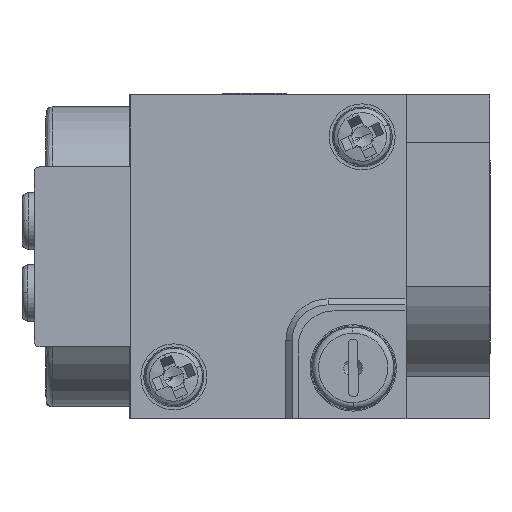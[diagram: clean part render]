
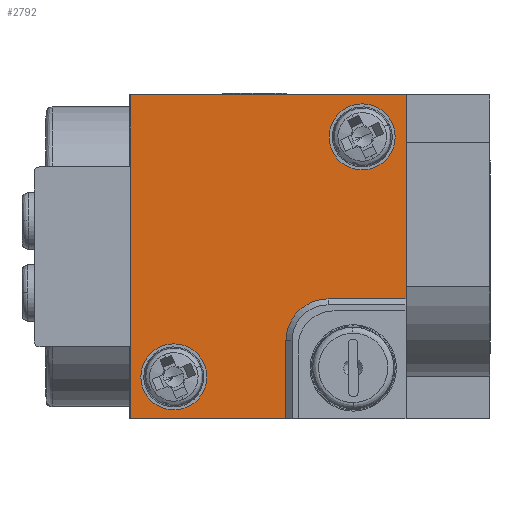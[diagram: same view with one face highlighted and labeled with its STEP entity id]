
A CAD part, left-side view. The second image highlights one B-rep face of the part: STEP entity #2792.
In plain terms, the highlighted planar face has unit normal (-1, 0, 0) as drawn and (0, 0, 1) by its records, which use the part's own axes.
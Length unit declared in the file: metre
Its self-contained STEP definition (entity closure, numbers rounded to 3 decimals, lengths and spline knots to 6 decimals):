
#42 = VERTEX_POINT ( 'NONE', #3464 ) ;
#139 = DIRECTION ( 'NONE',  ( 0., 0., -1. ) ) ;
#288 = DIRECTION ( 'NONE',  ( 0., 0., -1. ) ) ;
#476 = VECTOR ( 'NONE', #8822, 1. ) ;
#517 = CARTESIAN_POINT ( 'NONE',  ( 0., 0.031, 0.006 ) ) ;
#615 = VERTEX_POINT ( 'NONE', #5767 ) ;
#792 = LINE ( 'NONE', #8473, #476 ) ;
#836 = EDGE_CURVE ( 'NONE', #10432, #42, #5007, .T. ) ;
#1082 = CARTESIAN_POINT ( 'NONE',  ( 0.01, 0.02465, 0.006 ) ) ;
#1146 = CARTESIAN_POINT ( 'NONE',  ( -0.007, 0.0275, 0.006 ) ) ;
#1487 = CARTESIAN_POINT ( 'NONE',  ( -0.00725, 0.04035, 0.006 ) ) ;
#1625 = EDGE_CURVE ( 'NONE', #11656, #6036, #6417, .T. ) ;
#1980 = CARTESIAN_POINT ( 'NONE',  ( -0.01, 0.04035, 0.006 ) ) ;
#1982 = DIRECTION ( 'NONE',  ( -1., 0., 0. ) ) ;
#2053 = DIRECTION ( 'NONE',  ( 0., 0., 1. ) ) ;
#2071 = DIRECTION ( 'NONE',  ( 1., 0., 0. ) ) ;
#2090 = DIRECTION ( 'NONE',  ( 1., 0., 0. ) ) ;
#2150 = ORIENTED_EDGE ( 'NONE', *, *, #8457, .T. ) ;
#2172 = EDGE_CURVE ( 'NONE', #3720, #10432, #6701, .T. ) ;
#2227 = LINE ( 'NONE', #5671, #11767 ) ;
#2251 = AXIS2_PLACEMENT_3D ( 'NONE', #2435, #3340, #3299 ) ;
#2355 = FACE_OUTER_BOUND ( 'NONE', #11624, .T. ) ;
#2408 = CARTESIAN_POINT ( 'NONE',  ( -0.0135, 0.0325, 0.006 ) ) ;
#2435 = CARTESIAN_POINT ( 'NONE',  ( -0.0135, 0.021, 0.006 ) ) ;
#2664 = CARTESIAN_POINT ( 'NONE',  ( -0.0135, 0.044, 0.006 ) ) ;
#2679 = VERTEX_POINT ( 'NONE', #8218 ) ;
#2744 = ORIENTED_EDGE ( 'NONE', *, *, #11171, .T. ) ;
#2753 = CARTESIAN_POINT ( 'NONE',  ( 0.01275, 0.02465, 0.006 ) ) ;
#2792 = ADVANCED_FACE ( 'NONE', ( #9493, #3214, #2355 ), #2991, .T. ) ;
#2991 = PLANE ( 'NONE',  #2251 ) ;
#3214 = FACE_BOUND ( 'NONE', #4295, .T. ) ;
#3299 = DIRECTION ( 'NONE',  ( 1., 0., 0. ) ) ;
#3340 = DIRECTION ( 'NONE',  ( 0., 0., 1. ) ) ;
#3464 = CARTESIAN_POINT ( 'NONE',  ( 0.0135, 0.044, 0.006 ) ) ;
#3720 = VERTEX_POINT ( 'NONE', #8261 ) ;
#3732 = LINE ( 'NONE', #517, #10807 ) ;
#3808 = DIRECTION ( 'NONE',  ( 0., 0., 1. ) ) ;
#4253 = VERTEX_POINT ( 'NONE', #2753 ) ;
#4295 = EDGE_LOOP ( 'NONE', ( #2744, #6334 ) ) ;
#4606 = ORIENTED_EDGE ( 'NONE', *, *, #2172, .T. ) ;
#4690 = ORIENTED_EDGE ( 'NONE', *, *, #5284, .T. ) ;
#4720 = CARTESIAN_POINT ( 'NONE',  ( -0.01275, 0.04035, 0.006 ) ) ;
#5007 = LINE ( 'NONE', #8948, #9680 ) ;
#5035 = CARTESIAN_POINT ( 'NONE',  ( -0.0135, 0.031, 0.006 ) ) ;
#5040 = ORIENTED_EDGE ( 'NONE', *, *, #836, .T. ) ;
#5284 = EDGE_CURVE ( 'NONE', #615, #3720, #792, .T. ) ;
#5671 = CARTESIAN_POINT ( 'NONE',  ( 0., 0.044, 0.006 ) ) ;
#5767 = CARTESIAN_POINT ( 'NONE',  ( -0.0035, 0.0275, 0.006 ) ) ;
#5806 = AXIS2_PLACEMENT_3D ( 'NONE', #9397, #3808, #10307 ) ;
#5826 = DIRECTION ( 'NONE',  ( 1., 0., 0. ) ) ;
#5897 = AXIS2_PLACEMENT_3D ( 'NONE', #5973, #288, #6914 ) ;
#5973 = CARTESIAN_POINT ( 'NONE',  ( 0.01, 0.02465, 0.006 ) ) ;
#6036 = VERTEX_POINT ( 'NONE', #1487 ) ;
#6267 = AXIS2_PLACEMENT_3D ( 'NONE', #1980, #2053, #2071 ) ;
#6334 = ORIENTED_EDGE ( 'NONE', *, *, #10479, .T. ) ;
#6363 = VERTEX_POINT ( 'NONE', #5035 ) ;
#6417 = CIRCLE ( 'NONE', #6267, 0.00275 ) ;
#6701 = LINE ( 'NONE', #8163, #9226 ) ;
#6771 = DIRECTION ( 'NONE',  ( 0., 1., 0. ) ) ;
#6914 = DIRECTION ( 'NONE',  ( 1., 0., 0. ) ) ;
#7624 = ORIENTED_EDGE ( 'NONE', *, *, #11081, .T. ) ;
#7683 = DIRECTION ( 'NONE',  ( 0., 0., -1. ) ) ;
#7703 = ORIENTED_EDGE ( 'NONE', *, *, #9285, .F. ) ;
#7810 = EDGE_CURVE ( 'NONE', #8756, #615, #8309, .T. ) ;
#7987 = ORIENTED_EDGE ( 'NONE', *, *, #11694, .T. ) ;
#8010 = DIRECTION ( 'NONE',  ( 0., -1., 0. ) ) ;
#8163 = CARTESIAN_POINT ( 'NONE',  ( 0., 0.021, 0.006 ) ) ;
#8218 = CARTESIAN_POINT ( 'NONE',  ( 0.00725, 0.02465, 0.006 ) ) ;
#8261 = CARTESIAN_POINT ( 'NONE',  ( -0.0035, 0.021, 0.006 ) ) ;
#8309 = CIRCLE ( 'NONE', #8787, 0.0035 ) ;
#8430 = DIRECTION ( 'NONE',  ( 1., 0., 0. ) ) ;
#8457 = EDGE_CURVE ( 'NONE', #6363, #8756, #3732, .T. ) ;
#8473 = CARTESIAN_POINT ( 'NONE',  ( -0.0035, 0.0325, 0.006 ) ) ;
#8562 = ORIENTED_EDGE ( 'NONE', *, *, #7810, .T. ) ;
#8691 = LINE ( 'NONE', #2408, #11070 ) ;
#8756 = VERTEX_POINT ( 'NONE', #8817 ) ;
#8762 = CARTESIAN_POINT ( 'NONE',  ( 0.0135, 0.021, 0.006 ) ) ;
#8787 = AXIS2_PLACEMENT_3D ( 'NONE', #1146, #139, #6771 ) ;
#8816 = CIRCLE ( 'NONE', #5897, 0.00275 ) ;
#8817 = CARTESIAN_POINT ( 'NONE',  ( -0.007, 0.031, 0.006 ) ) ;
#8822 = DIRECTION ( 'NONE',  ( 0., -1., 0. ) ) ;
#8877 = DIRECTION ( 'NONE',  ( 0., 1., 0. ) ) ;
#8948 = CARTESIAN_POINT ( 'NONE',  ( 0.0135, 0.0325, 0.006 ) ) ;
#9226 = VECTOR ( 'NONE', #8430, 1. ) ;
#9285 = EDGE_CURVE ( 'NONE', #6036, #11656, #11512, .T. ) ;
#9397 = CARTESIAN_POINT ( 'NONE',  ( -0.01, 0.04035, 0.006 ) ) ;
#9493 = FACE_BOUND ( 'NONE', #11787, .T. ) ;
#9680 = VECTOR ( 'NONE', #8877, 1. ) ;
#10047 = ORIENTED_EDGE ( 'NONE', *, *, #1625, .F. ) ;
#10142 = VERTEX_POINT ( 'NONE', #2664 ) ;
#10307 = DIRECTION ( 'NONE',  ( 1., 0., 0. ) ) ;
#10432 = VERTEX_POINT ( 'NONE', #8762 ) ;
#10479 = EDGE_CURVE ( 'NONE', #2679, #4253, #8816, .T. ) ;
#10780 = CIRCLE ( 'NONE', #12031, 0.00275 ) ;
#10807 = VECTOR ( 'NONE', #5826, 1. ) ;
#11070 = VECTOR ( 'NONE', #8010, 1. ) ;
#11081 = EDGE_CURVE ( 'NONE', #10142, #6363, #8691, .T. ) ;
#11171 = EDGE_CURVE ( 'NONE', #4253, #2679, #10780, .T. ) ;
#11512 = CIRCLE ( 'NONE', #5806, 0.00275 ) ;
#11624 = EDGE_LOOP ( 'NONE', ( #7987, #7624, #2150, #8562, #4690, #4606, #5040 ) ) ;
#11656 = VERTEX_POINT ( 'NONE', #4720 ) ;
#11694 = EDGE_CURVE ( 'NONE', #42, #10142, #2227, .T. ) ;
#11767 = VECTOR ( 'NONE', #1982, 1. ) ;
#11787 = EDGE_LOOP ( 'NONE', ( #7703, #10047 ) ) ;
#12031 = AXIS2_PLACEMENT_3D ( 'NONE', #1082, #7683, #2090 ) ;
